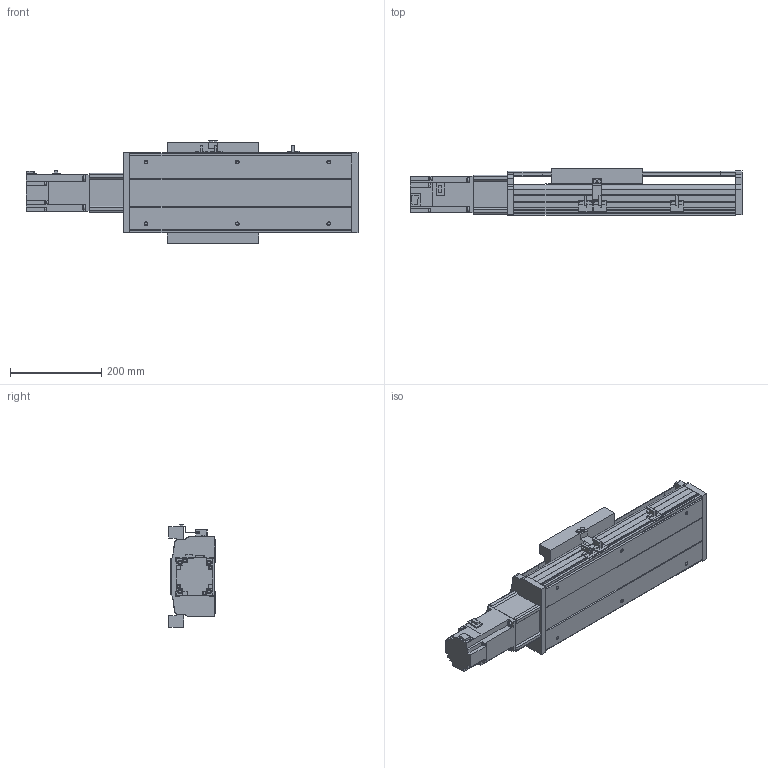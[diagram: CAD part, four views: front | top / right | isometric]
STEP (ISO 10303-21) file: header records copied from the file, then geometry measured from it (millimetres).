
FILE_DESCRIPTION( ( 'STEP AP214' ), '1' );
FILE_NAME( 'x:/temp/worker_27/temp/exporttempdir_6708_402_dZA2x/format_0/PSS200-L10-S150-BC-T75-C1-N(0).stp', '2022-06-06T02:33:39', ( 'License CC BY-ND 4.0' ), ( 'CADENAS' ), ' ', 'PARTsolutions', ' ' );
FILE_SCHEMA( ( 'AUTOMOTIVE_DESIGN { 1 0 10303 214 1 1 1 1 }' ) );
Length unit declared in the file: millimetre
Products named in the file (8): PSS200-L10-S150-BC-T75-C1-N(0); _PSS200-S150-BC-C1-N_body; _PSS200-N_Q; _PSS200-BC-C1-N_sl; _PSS200-N_sensor; _PSS200BC-N_h; _T75-p1; _PSS200-S150-BC-N_S
Assembly tree (9 placements, depth 2):
  PSS200-L10-S150-BC-T75-C1-N(0)
    _PSS200-S150-BC-C1-N_body
    _PSS200-N_Q
    _PSS200-BC-C1-N_sl
    _PSS200-N_sensor  x3
    _PSS200BC-N_h
    _T75-p1
    _PSS200-S150-BC-N_S
Bounding box: 726.3 x 101.5 x 223.86 mm (x, y, z)
Volume: 4812166.3 mm3; surface area: 1036153 mm2
Topology: 9 solids, 9 shells, 565 faces, 1507 edges, 1000 vertices
Faces by surface type: plane 439, cylinder 112, cone 14
Full cylindrical faces by diameter (mm): 4 x2, 4.5 x4, 6 x11, 6.647 x10, 8 x8, 10 x6, 25 x1, 67 x1, 70 x1
Entity records: 19811 total; most frequent: CARTESIAN_POINT 2776, ORIENTED_EDGE 2594, DIRECTION 2581, EDGE_CURVE 1297, LINE 1051, VECTOR 1051, VERTEX_POINT 896, AXIS2_PLACEMENT_3D 765
